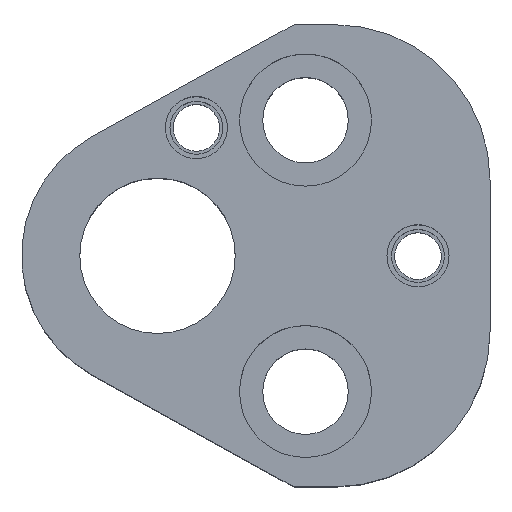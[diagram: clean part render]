
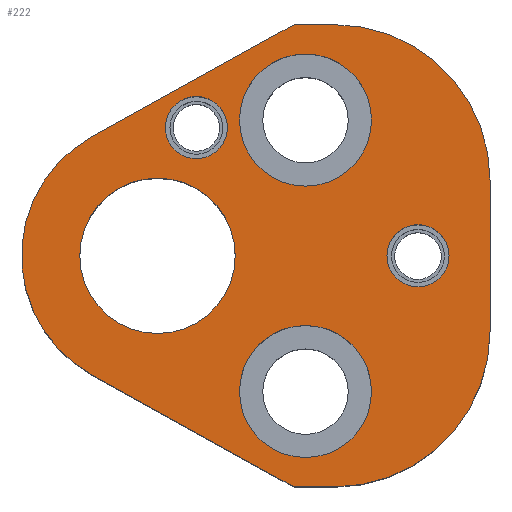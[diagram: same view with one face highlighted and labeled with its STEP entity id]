
A CAD part, top view. The second image highlights one B-rep face of the part: STEP entity #222.
In plain terms, the highlighted planar face has unit normal (0, 0, 1).
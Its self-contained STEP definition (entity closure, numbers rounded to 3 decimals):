
#101=FACE_BOUND('',#311,.T.);
#102=FACE_BOUND('',#312,.T.);
#103=FACE_BOUND('',#313,.T.);
#104=FACE_BOUND('',#314,.T.);
#105=FACE_BOUND('',#315,.T.);
#106=FACE_BOUND('',#316,.T.);
#150=CIRCLE('',#788,20.);
#152=CIRCLE('',#792,20.);
#155=CIRCLE('',#798,17.5);
#164=CIRCLE('',#812,8.5);
#166=CIRCLE('',#815,8.5);
#168=CIRCLE('',#819,8.5);
#170=CIRCLE('',#822,8.5);
#172=CIRCLE('',#826,4.);
#173=CIRCLE('',#827,4.);
#174=CIRCLE('',#828,4.);
#175=CIRCLE('',#829,4.);
#176=CIRCLE('',#830,10.);
#177=CIRCLE('',#831,10.);
#222=ADVANCED_FACE('',(#101,#102,#103,#104,#105,#106),#252,.T.);
#252=PLANE('',#832);
#311=EDGE_LOOP('',(#421,#422,#423,#424,#425,#426,#427,#428));
#312=EDGE_LOOP('',(#429,#430));
#313=EDGE_LOOP('',(#431,#432));
#314=EDGE_LOOP('',(#433,#434));
#315=EDGE_LOOP('',(#435,#436));
#316=EDGE_LOOP('',(#437,#438));
#421=ORIENTED_EDGE('',*,*,#606,.T.);
#422=ORIENTED_EDGE('',*,*,#610,.T.);
#423=ORIENTED_EDGE('',*,*,#613,.T.);
#424=ORIENTED_EDGE('',*,*,#616,.T.);
#425=ORIENTED_EDGE('',*,*,#619,.T.);
#426=ORIENTED_EDGE('',*,*,#622,.T.);
#427=ORIENTED_EDGE('',*,*,#625,.T.);
#428=ORIENTED_EDGE('',*,*,#628,.T.);
#429=ORIENTED_EDGE('',*,*,#653,.F.);
#430=ORIENTED_EDGE('',*,*,#654,.F.);
#431=ORIENTED_EDGE('',*,*,#655,.F.);
#432=ORIENTED_EDGE('',*,*,#656,.F.);
#433=ORIENTED_EDGE('',*,*,#651,.F.);
#434=ORIENTED_EDGE('',*,*,#647,.F.);
#435=ORIENTED_EDGE('',*,*,#645,.F.);
#436=ORIENTED_EDGE('',*,*,#641,.F.);
#437=ORIENTED_EDGE('',*,*,#657,.T.);
#438=ORIENTED_EDGE('',*,*,#658,.T.);
#542=VERTEX_POINT('',#1118);
#543=VERTEX_POINT('',#1120);
#546=VERTEX_POINT('',#1127);
#548=VERTEX_POINT('',#1133);
#550=VERTEX_POINT('',#1139);
#552=VERTEX_POINT('',#1145);
#554=VERTEX_POINT('',#1151);
#556=VERTEX_POINT('',#1157);
#565=VERTEX_POINT('',#1189);
#566=VERTEX_POINT('',#1190);
#569=VERTEX_POINT('',#1202);
#570=VERTEX_POINT('',#1203);
#573=VERTEX_POINT('',#1215);
#574=VERTEX_POINT('',#1216);
#575=VERTEX_POINT('',#1219);
#576=VERTEX_POINT('',#1220);
#577=VERTEX_POINT('',#1223);
#578=VERTEX_POINT('',#1224);
#606=EDGE_CURVE('',#543,#542,#702,.T.);
#610=EDGE_CURVE('',#542,#546,#706,.T.);
#613=EDGE_CURVE('',#546,#548,#150,.T.);
#616=EDGE_CURVE('',#548,#550,#710,.T.);
#619=EDGE_CURVE('',#550,#552,#152,.T.);
#622=EDGE_CURVE('',#552,#554,#714,.T.);
#625=EDGE_CURVE('',#554,#556,#717,.T.);
#628=EDGE_CURVE('',#556,#543,#155,.T.);
#641=EDGE_CURVE('',#565,#566,#164,.T.);
#645=EDGE_CURVE('',#566,#565,#166,.T.);
#647=EDGE_CURVE('',#569,#570,#168,.T.);
#651=EDGE_CURVE('',#570,#569,#170,.T.);
#653=EDGE_CURVE('',#573,#574,#172,.T.);
#654=EDGE_CURVE('',#574,#573,#173,.T.);
#655=EDGE_CURVE('',#575,#576,#174,.T.);
#656=EDGE_CURVE('',#576,#575,#175,.T.);
#657=EDGE_CURVE('',#577,#578,#176,.T.);
#658=EDGE_CURVE('',#578,#577,#177,.T.);
#702=LINE('',#1119,#744);
#706=LINE('',#1128,#748);
#710=LINE('',#1140,#752);
#714=LINE('',#1152,#756);
#717=LINE('',#1158,#759);
#744=VECTOR('',#884,1.);
#748=VECTOR('',#890,1.);
#752=VECTOR('',#902,1.);
#756=VECTOR('',#914,1.);
#759=VECTOR('',#919,1.);
#788=AXIS2_PLACEMENT_3D('',#1134,#895,#896);
#792=AXIS2_PLACEMENT_3D('',#1146,#907,#908);
#798=AXIS2_PLACEMENT_3D('',#1162,#925,#926);
#812=AXIS2_PLACEMENT_3D('',#1188,#957,#958);
#815=AXIS2_PLACEMENT_3D('',#1197,#965,#966);
#819=AXIS2_PLACEMENT_3D('',#1201,#973,#974);
#822=AXIS2_PLACEMENT_3D('',#1210,#981,#982);
#826=AXIS2_PLACEMENT_3D('',#1214,#989,#990);
#827=AXIS2_PLACEMENT_3D('',#1217,#991,#992);
#828=AXIS2_PLACEMENT_3D('',#1218,#993,#994);
#829=AXIS2_PLACEMENT_3D('',#1221,#995,#996);
#830=AXIS2_PLACEMENT_3D('',#1222,#997,#998);
#831=AXIS2_PLACEMENT_3D('',#1225,#999,#1000);
#832=AXIS2_PLACEMENT_3D('',#1226,#1001,#1002);
#884=DIRECTION('',(0.875,-0.485,0.));
#890=DIRECTION('',(1.,0.,0.));
#895=DIRECTION('',(0.,0.,1.));
#896=DIRECTION('',(-0.707,0.707,0.));
#902=DIRECTION('',(0.,1.,0.));
#907=DIRECTION('',(0.,0.,1.));
#908=DIRECTION('',(-0.707,-0.707,0.));
#914=DIRECTION('',(-1.,0.,0.));
#919=DIRECTION('',(-0.875,-0.485,0.));
#925=DIRECTION('',(0.,0.,1.));
#926=DIRECTION('',(1.,0.,0.));
#957=DIRECTION('',(0.,0.,1.));
#958=DIRECTION('',(-1.,0.,0.));
#965=DIRECTION('',(0.,0.,1.));
#966=DIRECTION('',(1.,0.,0.));
#973=DIRECTION('',(0.,0.,1.));
#974=DIRECTION('',(-1.,0.,0.));
#981=DIRECTION('',(0.,0.,1.));
#982=DIRECTION('',(1.,0.,0.));
#989=DIRECTION('',(0.,0.,1.));
#990=DIRECTION('',(1.,0.,0.));
#991=DIRECTION('',(0.,0.,1.));
#992=DIRECTION('',(-1.,0.,0.));
#993=DIRECTION('',(0.,0.,1.));
#994=DIRECTION('',(1.,0.,0.));
#995=DIRECTION('',(0.,0.,1.));
#996=DIRECTION('',(-1.,0.,0.));
#997=DIRECTION('',(0.,0.,-1.));
#998=DIRECTION('',(-1.,0.,0.));
#999=DIRECTION('',(0.,0.,-1.));
#1000=DIRECTION('',(1.,0.,0.));
#1001=DIRECTION('',(0.,0.,1.));
#1002=DIRECTION('',(-0.875,0.485,0.));
#1118=CARTESIAN_POINT('',(17.574,-29.75,32.));
#1119=CARTESIAN_POINT('',(17.574,-29.75,32.));
#1120=CARTESIAN_POINT('',(-8.484,-15.306,32.));
#1127=CARTESIAN_POINT('',(22.8,-29.75,32.));
#1128=CARTESIAN_POINT('',(17.574,-29.75,32.));
#1133=CARTESIAN_POINT('',(42.8,-9.75,32.));
#1134=CARTESIAN_POINT('',(22.8,-9.75,32.));
#1139=CARTESIAN_POINT('',(42.8,9.75,32.));
#1140=CARTESIAN_POINT('',(42.8,9.75,32.));
#1145=CARTESIAN_POINT('',(22.8,29.75,32.));
#1146=CARTESIAN_POINT('',(22.8,9.75,32.));
#1151=CARTESIAN_POINT('',(17.574,29.75,32.));
#1152=CARTESIAN_POINT('',(17.574,29.75,32.));
#1157=CARTESIAN_POINT('',(-8.484,15.306,32.));
#1158=CARTESIAN_POINT('',(17.574,29.75,32.));
#1162=CARTESIAN_POINT('',(0.,0.,32.));
#1188=CARTESIAN_POINT('',(19.05,-17.47,32.));
#1189=CARTESIAN_POINT('',(19.05,-25.97,32.));
#1190=CARTESIAN_POINT('',(19.05,-8.97,32.));
#1197=CARTESIAN_POINT('',(19.05,-17.47,32.));
#1201=CARTESIAN_POINT('',(19.05,17.47,32.));
#1202=CARTESIAN_POINT('',(19.05,8.97,32.));
#1203=CARTESIAN_POINT('',(19.05,25.97,32.));
#1210=CARTESIAN_POINT('',(19.05,17.47,32.));
#1214=CARTESIAN_POINT('',(33.53,0.,32.));
#1215=CARTESIAN_POINT('',(33.53,4.,32.));
#1216=CARTESIAN_POINT('',(33.53,-4.,32.));
#1217=CARTESIAN_POINT('',(33.53,0.,32.));
#1218=CARTESIAN_POINT('',(5.,16.5,32.));
#1219=CARTESIAN_POINT('',(5.,20.5,32.));
#1220=CARTESIAN_POINT('',(5.,12.5,32.));
#1221=CARTESIAN_POINT('',(5.,16.5,32.));
#1222=CARTESIAN_POINT('',(0.,0.,32.));
#1223=CARTESIAN_POINT('',(0.,10.,32.));
#1224=CARTESIAN_POINT('',(0.,-10.,32.));
#1225=CARTESIAN_POINT('',(0.,0.,32.));
#1226=CARTESIAN_POINT('',(-8.484,-15.306,32.));
